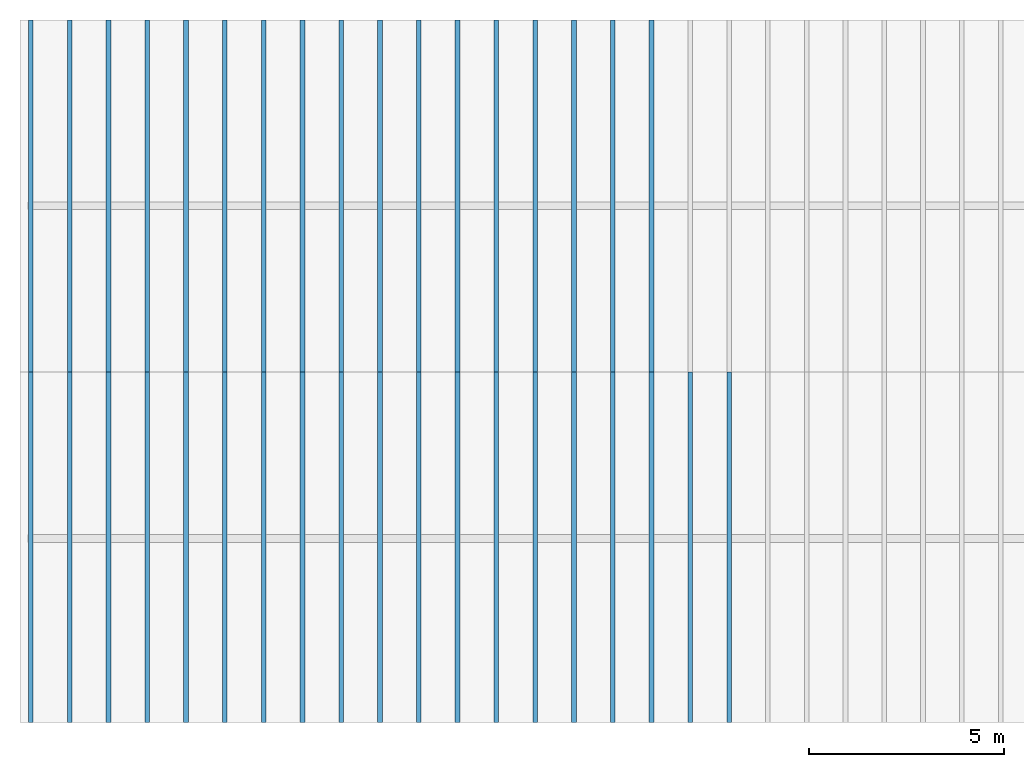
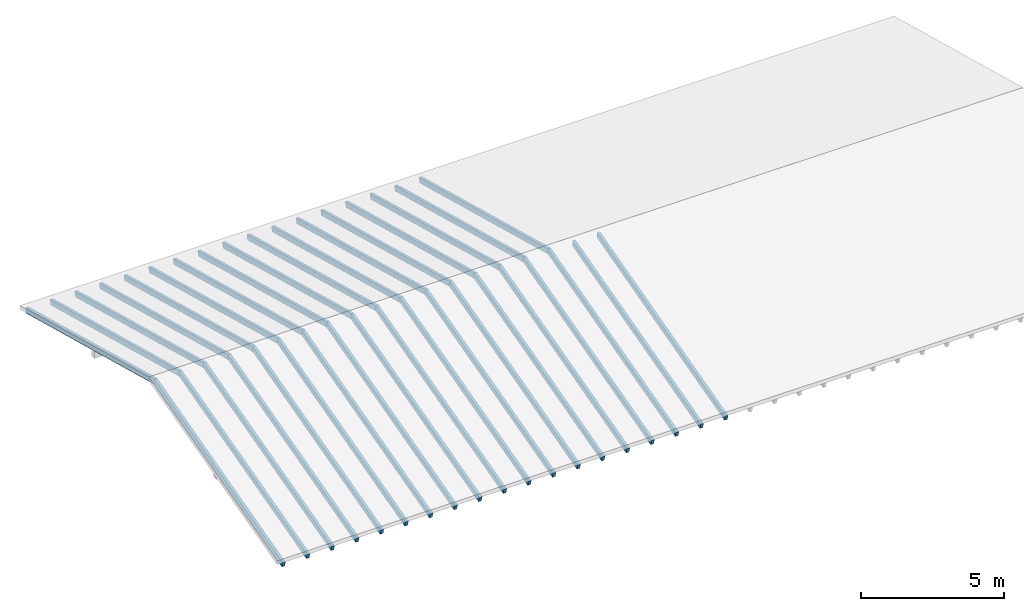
# One storey, part 1 of 3: 36 beams.
"""IFC4 building model written with IfcOpenShell, lengths in metres."""

from ifc_helpers import new_model, entity, si_unit, converted_unit, frame, origin_with_axes, origin_2d_with_axis, place, context, subcontext, project, spatial, rectangle, extrude, clip, halfspace, material, material_profile, profile_set, profile_usage, type_object, element, save


model = new_model("IFC4")

# Units and contexts
model_context = context("Model", 3, precision=1e-05, world=origin_with_axes())
plan_context = context("Plan", 2, precision=1e-05, world=origin_2d_with_axis())
body_context = subcontext(model_context, "Body", "Model", "MODEL_VIEW")
ifc_project = project(units=[converted_unit("PLANEANGLEUNIT", "degree", entity("IfcReal", 0.0174532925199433), si_unit("PLANEANGLEUNIT", "RADIAN"), dimensions=[0, 0, 0, 0, 0, 0, 0]), si_unit("AREAUNIT", "SQUARE_METRE"), si_unit("VOLUMEUNIT", "CUBIC_METRE"), si_unit("LENGTHUNIT", "METRE")], contexts=[model_context, plan_context])

# Site, building, storey
site_placement = place(None, origin_with_axes())
site = spatial("IfcSite", under=ifc_project, at=site_placement, Name="My Site")
building_placement = place(site_placement, origin_with_axes())
building = spatial("IfcBuilding", under=site, at=building_placement, Name="Werkhalle")
storey_placement = place(building_placement, frame((0.0, 0.0, 8.89999961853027), z_axis=(0.0, 0.0, 1.0), x_axis=(1.0, 0.0, 0.0)))
storey = spatial("IfcBuildingStorey", under=building, at=storey_placement, Name="05 Dach")

# Beams
ifc_material = material(Name="Fichte", Category="Holz")
ifc_material_profile = material_profile(ifc_material, rectangle(XDim=0.119999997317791, YDim=0.219999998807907))
ifc_profile_set = profile_set([ifc_material_profile], Name="Balken 12 / 22")
ifc_profile_usage_1 = profile_usage(ifc_profile_set, cardinal=1)
beam_type = type_object("IfcBeamType", Name="Holzbalken", PredefinedType="NOTDEFINED", material=ifc_profile_set)
beam_1_placement = place(storey_placement, frame((16.0760040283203, 16.9843139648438, -2.66374588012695), z_axis=(0.0, -0.965925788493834, 0.258819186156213), x_axis=(1.0, 0.0, 0.0)))
element("IfcBeam", 1, at=beam_1_placement, inside=storey, type_object=beam_type, material=ifc_profile_usage_1, Name="Sparren rechts", context=body_context, shape_type="Clipping", body=[
    clip(extrude(rectangle(XDim=0.119999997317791, YDim=0.219999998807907), frame((-0.0599999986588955, 0.109999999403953, 0.0), z_axis=(0.0, 0.0, 1.0), x_axis=(1.0, 0.0, 0.0)), (0.0, 0.0, 1.0), 9.96124942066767), halfspace(frame((-35.0000038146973, 0.220001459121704, 9.36019802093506), z_axis=(4.37113492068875e-08, -0.258823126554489, 0.965924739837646), x_axis=(-1.17125340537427e-08, -0.965924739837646, -0.258823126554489)), False)),
])
ifc_profile_usage_2 = profile_usage(ifc_profile_set, cardinal=1)
beam_2_placement = place(storey_placement, frame((15.0800037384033, 16.9843139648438, -2.66374588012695), z_axis=(0.0, -0.965925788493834, 0.258819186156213), x_axis=(1.0, 0.0, 0.0)))
element("IfcBeam", 2, at=beam_2_placement, inside=storey, type_object=beam_type, material=ifc_profile_usage_2, Name="Sparren rechts", context=body_context, shape_type="Clipping", body=[
    clip(extrude(rectangle(XDim=0.119999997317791, YDim=0.219999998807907), frame((-0.0599999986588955, 0.109999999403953, 0.0), z_axis=(0.0, 0.0, 1.0), x_axis=(1.0, 0.0, 0.0)), (0.0, 0.0, 1.0), 9.96124942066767), halfspace(frame((-35.0000038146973, 0.220001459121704, 9.36019802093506), z_axis=(4.37113492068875e-08, -0.258823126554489, 0.965924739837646), x_axis=(-1.17125340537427e-08, -0.965924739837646, -0.258823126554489)), False)),
])
ifc_profile_usage_3 = profile_usage(ifc_profile_set, cardinal=1)
beam_3_placement = place(storey_placement, frame((14.0840034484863, 16.9843139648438, -2.66374588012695), z_axis=(0.0, -0.965925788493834, 0.258819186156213), x_axis=(1.0, 0.0, 0.0)))
element("IfcBeam", 3, at=beam_3_placement, inside=storey, type_object=beam_type, material=ifc_profile_usage_3, Name="Sparren rechts", context=body_context, shape_type="Clipping", body=[
    clip(extrude(rectangle(XDim=0.119999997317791, YDim=0.219999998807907), frame((-0.0599999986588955, 0.109999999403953, 0.0), z_axis=(0.0, 0.0, 1.0), x_axis=(1.0, 0.0, 0.0)), (0.0, 0.0, 1.0), 9.96124942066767), halfspace(frame((-35.0000038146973, 0.220001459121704, 9.36019802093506), z_axis=(4.37113492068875e-08, -0.258823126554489, 0.965924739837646), x_axis=(-1.17125340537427e-08, -0.965924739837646, -0.258823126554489)), False)),
])
ifc_profile_usage_4 = profile_usage(ifc_profile_set, cardinal=1)
beam_4_placement = place(storey_placement, frame((13.0880031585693, 16.9843139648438, -2.66374588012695), z_axis=(0.0, -0.965925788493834, 0.258819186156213), x_axis=(1.0, 0.0, 0.0)))
element("IfcBeam", 4, at=beam_4_placement, inside=storey, type_object=beam_type, material=ifc_profile_usage_4, Name="Sparren rechts", context=body_context, shape_type="Clipping", body=[
    clip(extrude(rectangle(XDim=0.119999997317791, YDim=0.219999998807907), frame((-0.0599999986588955, 0.109999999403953, 0.0), z_axis=(0.0, 0.0, 1.0), x_axis=(1.0, 0.0, 0.0)), (0.0, 0.0, 1.0), 9.96124942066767), halfspace(frame((-35.0000038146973, 0.220001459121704, 9.36019802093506), z_axis=(4.37113492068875e-08, -0.258823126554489, 0.965924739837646), x_axis=(-1.17125340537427e-08, -0.965924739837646, -0.258823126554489)), False)),
])
ifc_profile_usage_5 = profile_usage(ifc_profile_set, cardinal=1)
beam_5_placement = place(storey_placement, frame((12.092004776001, 16.9843139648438, -2.66374588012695), z_axis=(0.0, -0.965925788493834, 0.258819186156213), x_axis=(1.0, 0.0, 0.0)))
element("IfcBeam", 5, at=beam_5_placement, inside=storey, type_object=beam_type, material=ifc_profile_usage_5, Name="Sparren rechts", context=body_context, shape_type="Clipping", body=[
    clip(extrude(rectangle(XDim=0.119999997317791, YDim=0.219999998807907), frame((-0.0599999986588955, 0.109999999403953, 0.0), z_axis=(0.0, 0.0, 1.0), x_axis=(1.0, 0.0, 0.0)), (0.0, 0.0, 1.0), 9.96124942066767), halfspace(frame((-35.0000038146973, 0.220001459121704, 9.36019802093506), z_axis=(4.37113492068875e-08, -0.258823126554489, 0.965924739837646), x_axis=(-1.17125340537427e-08, -0.965924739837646, -0.258823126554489)), False)),
])
ifc_profile_usage_6 = profile_usage(ifc_profile_set, cardinal=1)
beam_6_placement = place(storey_placement, frame((11.096004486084, 16.9843139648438, -2.66374588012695), z_axis=(0.0, -0.965925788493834, 0.258819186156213), x_axis=(1.0, 0.0, 0.0)))
element("IfcBeam", 6, at=beam_6_placement, inside=storey, type_object=beam_type, material=ifc_profile_usage_6, Name="Sparren rechts", context=body_context, shape_type="Clipping", body=[
    clip(extrude(rectangle(XDim=0.119999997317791, YDim=0.219999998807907), frame((-0.0599999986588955, 0.109999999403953, 0.0), z_axis=(0.0, 0.0, 1.0), x_axis=(1.0, 0.0, 0.0)), (0.0, 0.0, 1.0), 9.96124942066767), halfspace(frame((-35.0000038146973, 0.220001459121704, 9.36019802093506), z_axis=(4.37113492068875e-08, -0.258823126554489, 0.965924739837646), x_axis=(-1.17125340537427e-08, -0.965924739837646, -0.258823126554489)), False)),
])
ifc_profile_usage_7 = profile_usage(ifc_profile_set, cardinal=1)
beam_7_placement = place(storey_placement, frame((10.100004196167, 16.9843139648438, -2.66374588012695), z_axis=(0.0, -0.965925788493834, 0.258819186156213), x_axis=(1.0, 0.0, 0.0)))
element("IfcBeam", 7, at=beam_7_placement, inside=storey, type_object=beam_type, material=ifc_profile_usage_7, Name="Sparren rechts", context=body_context, shape_type="Clipping", body=[
    clip(extrude(rectangle(XDim=0.119999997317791, YDim=0.219999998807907), frame((-0.0599999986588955, 0.109999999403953, 0.0), z_axis=(0.0, 0.0, 1.0), x_axis=(1.0, 0.0, 0.0)), (0.0, 0.0, 1.0), 9.96124942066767), halfspace(frame((-35.0000038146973, 0.220001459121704, 9.36019802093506), z_axis=(4.37113492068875e-08, -0.258823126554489, 0.965924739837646), x_axis=(-1.17125340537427e-08, -0.965924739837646, -0.258823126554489)), False)),
])
ifc_profile_usage_8 = profile_usage(ifc_profile_set, cardinal=1)
beam_8_placement = place(storey_placement, frame((9.10400390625, 16.9843139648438, -2.66374588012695), z_axis=(0.0, -0.965925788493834, 0.258819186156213), x_axis=(1.0, 0.0, 0.0)))
element("IfcBeam", 8, at=beam_8_placement, inside=storey, type_object=beam_type, material=ifc_profile_usage_8, Name="Sparren rechts", context=body_context, shape_type="Clipping", body=[
    clip(extrude(rectangle(XDim=0.119999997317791, YDim=0.219999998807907), frame((-0.0599999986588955, 0.109999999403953, 0.0), z_axis=(0.0, 0.0, 1.0), x_axis=(1.0, 0.0, 0.0)), (0.0, 0.0, 1.0), 9.96124942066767), halfspace(frame((-35.0000038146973, 0.220001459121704, 9.36019802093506), z_axis=(4.37113492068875e-08, -0.258823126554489, 0.965924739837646), x_axis=(-1.17125340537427e-08, -0.965924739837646, -0.258823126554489)), False)),
])
ifc_profile_usage_9 = profile_usage(ifc_profile_set, cardinal=1)
beam_9_placement = place(storey_placement, frame((8.10800361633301, 16.9843139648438, -2.66374588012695), z_axis=(0.0, -0.965925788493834, 0.258819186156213), x_axis=(1.0, 0.0, 0.0)))
element("IfcBeam", 9, at=beam_9_placement, inside=storey, type_object=beam_type, material=ifc_profile_usage_9, Name="Sparren rechts", context=body_context, shape_type="Clipping", body=[
    clip(extrude(rectangle(XDim=0.119999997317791, YDim=0.219999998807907), frame((-0.0599999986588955, 0.109999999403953, 0.0), z_axis=(0.0, 0.0, 1.0), x_axis=(1.0, 0.0, 0.0)), (0.0, 0.0, 1.0), 9.96124942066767), halfspace(frame((-35.0000038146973, 0.220001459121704, 9.36019802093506), z_axis=(4.37113492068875e-08, -0.258823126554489, 0.965924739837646), x_axis=(-1.17125340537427e-08, -0.965924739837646, -0.258823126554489)), False)),
])
ifc_profile_usage_10 = profile_usage(ifc_profile_set, cardinal=1)
beam_10_placement = place(storey_placement, frame((7.11200332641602, 16.9843139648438, -2.66374588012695), z_axis=(0.0, -0.965925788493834, 0.258819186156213), x_axis=(1.0, 0.0, 0.0)))
element("IfcBeam", 10, at=beam_10_placement, inside=storey, type_object=beam_type, material=ifc_profile_usage_10, Name="Sparren rechts", context=body_context, shape_type="Clipping", body=[
    clip(extrude(rectangle(XDim=0.119999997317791, YDim=0.219999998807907), frame((-0.0599999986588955, 0.109999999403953, 0.0), z_axis=(0.0, 0.0, 1.0), x_axis=(1.0, 0.0, 0.0)), (0.0, 0.0, 1.0), 9.96124942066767), halfspace(frame((-35.0000038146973, 0.220001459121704, 9.36019802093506), z_axis=(4.37113492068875e-08, -0.258823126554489, 0.965924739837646), x_axis=(-1.17125340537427e-08, -0.965924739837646, -0.258823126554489)), False)),
])
ifc_profile_usage_11 = profile_usage(ifc_profile_set, cardinal=1)
beam_11_placement = place(storey_placement, frame((6.11600494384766, 16.9843139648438, -2.66374588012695), z_axis=(0.0, -0.965925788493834, 0.258819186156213), x_axis=(1.0, 0.0, 0.0)))
element("IfcBeam", 11, at=beam_11_placement, inside=storey, type_object=beam_type, material=ifc_profile_usage_11, Name="Sparren rechts", context=body_context, shape_type="Clipping", body=[
    clip(extrude(rectangle(XDim=0.119999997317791, YDim=0.219999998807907), frame((-0.0599999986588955, 0.109999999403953, 0.0), z_axis=(0.0, 0.0, 1.0), x_axis=(1.0, 0.0, 0.0)), (0.0, 0.0, 1.0), 9.96124942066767), halfspace(frame((-35.0000038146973, 0.220001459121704, 9.36019802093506), z_axis=(4.37113492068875e-08, -0.258823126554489, 0.965924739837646), x_axis=(-1.17125340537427e-08, -0.965924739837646, -0.258823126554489)), False)),
])
ifc_profile_usage_12 = profile_usage(ifc_profile_set, cardinal=1)
beam_12_placement = place(storey_placement, frame((5.12000465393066, 16.9843139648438, -2.66374588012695), z_axis=(0.0, -0.965925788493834, 0.258819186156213), x_axis=(1.0, 0.0, 0.0)))
element("IfcBeam", 12, at=beam_12_placement, inside=storey, type_object=beam_type, material=ifc_profile_usage_12, Name="Sparren rechts", context=body_context, shape_type="Clipping", body=[
    clip(extrude(rectangle(XDim=0.119999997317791, YDim=0.219999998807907), frame((-0.0599999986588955, 0.109999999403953, 0.0), z_axis=(0.0, 0.0, 1.0), x_axis=(1.0, 0.0, 0.0)), (0.0, 0.0, 1.0), 9.96124942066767), halfspace(frame((-35.0000038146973, 0.220001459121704, 9.36019802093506), z_axis=(4.37113492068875e-08, -0.258823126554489, 0.965924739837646), x_axis=(-1.17125340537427e-08, -0.965924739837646, -0.258823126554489)), False)),
])
ifc_profile_usage_13 = profile_usage(ifc_profile_set, cardinal=1)
beam_13_placement = place(storey_placement, frame((4.12400436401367, 16.9843139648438, -2.66374588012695), z_axis=(0.0, -0.965925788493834, 0.258819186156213), x_axis=(1.0, 0.0, 0.0)))
element("IfcBeam", 13, at=beam_13_placement, inside=storey, type_object=beam_type, material=ifc_profile_usage_13, Name="Sparren rechts", context=body_context, shape_type="Clipping", body=[
    clip(extrude(rectangle(XDim=0.119999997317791, YDim=0.219999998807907), frame((-0.0599999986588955, 0.109999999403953, 0.0), z_axis=(0.0, 0.0, 1.0), x_axis=(1.0, 0.0, 0.0)), (0.0, 0.0, 1.0), 9.96124942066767), halfspace(frame((-35.0000038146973, 0.220001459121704, 9.36019802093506), z_axis=(4.37113492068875e-08, -0.258823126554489, 0.965924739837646), x_axis=(-1.17125340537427e-08, -0.965924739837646, -0.258823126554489)), False)),
])
ifc_profile_usage_14 = profile_usage(ifc_profile_set, cardinal=1)
beam_14_placement = place(storey_placement, frame((3.12800407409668, 16.9843139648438, -2.66374588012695), z_axis=(0.0, -0.965925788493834, 0.258819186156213), x_axis=(1.0, 0.0, 0.0)))
element("IfcBeam", 14, at=beam_14_placement, inside=storey, type_object=beam_type, material=ifc_profile_usage_14, Name="Sparren rechts", context=body_context, shape_type="Clipping", body=[
    clip(extrude(rectangle(XDim=0.119999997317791, YDim=0.219999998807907), frame((-0.0599999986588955, 0.109999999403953, 0.0), z_axis=(0.0, 0.0, 1.0), x_axis=(1.0, 0.0, 0.0)), (0.0, 0.0, 1.0), 9.96124942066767), halfspace(frame((-35.0000038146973, 0.220001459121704, 9.36019802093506), z_axis=(4.37113492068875e-08, -0.258823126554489, 0.965924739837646), x_axis=(-1.17125340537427e-08, -0.965924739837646, -0.258823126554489)), False)),
])
ifc_profile_usage_15 = profile_usage(ifc_profile_set, cardinal=1)
beam_15_placement = place(storey_placement, frame((2.13200378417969, 16.9843139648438, -2.66374588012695), z_axis=(0.0, -0.965925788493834, 0.258819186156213), x_axis=(1.0, 0.0, 0.0)))
element("IfcBeam", 15, at=beam_15_placement, inside=storey, type_object=beam_type, material=ifc_profile_usage_15, Name="Sparren rechts", context=body_context, shape_type="Clipping", body=[
    clip(extrude(rectangle(XDim=0.119999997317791, YDim=0.219999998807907), frame((-0.0599999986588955, 0.109999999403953, 0.0), z_axis=(0.0, 0.0, 1.0), x_axis=(1.0, 0.0, 0.0)), (0.0, 0.0, 1.0), 9.96124942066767), halfspace(frame((-35.0000038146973, 0.220001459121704, 9.36019802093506), z_axis=(4.37113492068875e-08, -0.258823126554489, 0.965924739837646), x_axis=(-1.17125340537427e-08, -0.965924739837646, -0.258823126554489)), False)),
])
ifc_profile_usage_16 = profile_usage(ifc_profile_set, cardinal=1)
beam_16_placement = place(storey_placement, frame((1.13600540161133, 16.9843139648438, -2.66374588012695), z_axis=(0.0, -0.965925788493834, 0.258819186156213), x_axis=(1.0, 0.0, 0.0)))
element("IfcBeam", 16, at=beam_16_placement, inside=storey, type_object=beam_type, material=ifc_profile_usage_16, Name="Sparren rechts", context=body_context, shape_type="Clipping", body=[
    clip(extrude(rectangle(XDim=0.119999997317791, YDim=0.219999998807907), frame((-0.0599999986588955, 0.109999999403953, 0.0), z_axis=(0.0, 0.0, 1.0), x_axis=(1.0, 0.0, 0.0)), (0.0, 0.0, 1.0), 9.96124942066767), halfspace(frame((-35.0000038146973, 0.220001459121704, 9.36019802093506), z_axis=(4.37113492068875e-08, -0.258823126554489, 0.965924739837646), x_axis=(-1.17125340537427e-08, -0.965924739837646, -0.258823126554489)), False)),
])
ifc_profile_usage_17 = profile_usage(ifc_profile_set, cardinal=1)
beam_17_placement = place(storey_placement, frame((0.140003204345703, 16.9843139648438, -2.66374588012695), z_axis=(0.0, -0.965925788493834, 0.258819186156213), x_axis=(1.0, 0.0, 0.0)))
element("IfcBeam", 17, at=beam_17_placement, inside=storey, type_object=beam_type, material=ifc_profile_usage_17, Name="Sparren rechts", context=body_context, shape_type="Clipping", body=[
    clip(extrude(rectangle(XDim=0.119999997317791, YDim=0.219999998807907), frame((-0.0599999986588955, 0.109999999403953, 0.0), z_axis=(0.0, 0.0, 1.0), x_axis=(1.0, 0.0, 0.0)), (0.0, 0.0, 1.0), 9.96124942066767), halfspace(frame((-35.0000038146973, 0.220001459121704, 9.36019802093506), z_axis=(4.37113492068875e-08, -0.258823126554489, 0.965924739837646), x_axis=(-1.17125340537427e-08, -0.965924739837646, -0.258823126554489)), False)),
])
ifc_profile_usage_18 = profile_usage(ifc_profile_set, cardinal=3)
beam_18_placement = place(storey_placement, frame((18.0680046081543, -0.942804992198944, -2.65262269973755), z_axis=(-1.45850730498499e-07, 0.965925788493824, 0.25881918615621), x_axis=(-0.999999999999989, -1.50995802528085e-07, 4.07969310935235e-15)))
element("IfcBeam", 18, at=beam_18_placement, inside=storey, type_object=beam_type, material=ifc_profile_usage_18, Name="Sparren Links", context=body_context, shape_type="Clipping", body=[
    clip(extrude(rectangle(XDim=0.119999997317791, YDim=0.219999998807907), frame((0.0599999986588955, 0.109999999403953, 0.0), z_axis=(0.0, 0.0, 1.0), x_axis=(1.0, 0.0, 0.0)), (0.0, 0.0, 1.0), 9.91827341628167), halfspace(frame((35.0000038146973, 0.220000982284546, 9.31722068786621), z_axis=(-4.37114344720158e-08, -0.2588150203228, 0.965926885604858), x_axis=(1.17121610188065e-08, -0.965926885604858, -0.2588150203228)), False)),
])
ifc_profile_usage_19 = profile_usage(ifc_profile_set, cardinal=3)
beam_19_placement = place(storey_placement, frame((17.0720043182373, -0.942805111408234, -2.65262269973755), z_axis=(-1.45850730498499e-07, 0.965925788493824, 0.25881918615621), x_axis=(-0.999999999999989, -1.50995802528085e-07, 4.07969310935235e-15)))
element("IfcBeam", 19, at=beam_19_placement, inside=storey, type_object=beam_type, material=ifc_profile_usage_19, Name="Sparren Links", context=body_context, shape_type="Clipping", body=[
    clip(extrude(rectangle(XDim=0.119999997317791, YDim=0.219999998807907), frame((0.0599999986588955, 0.109999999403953, 0.0), z_axis=(0.0, 0.0, 1.0), x_axis=(1.0, 0.0, 0.0)), (0.0, 0.0, 1.0), 9.91827341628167), halfspace(frame((35.0000038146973, 0.220000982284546, 9.31722068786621), z_axis=(-4.37114344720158e-08, -0.2588150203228, 0.965926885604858), x_axis=(1.17121610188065e-08, -0.965926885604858, -0.2588150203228)), False)),
])
ifc_profile_usage_20 = profile_usage(ifc_profile_set, cardinal=3)
beam_20_placement = place(storey_placement, frame((16.0760040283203, -0.942805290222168, -2.65262269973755), z_axis=(-1.45850730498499e-07, 0.965925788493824, 0.25881918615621), x_axis=(-0.999999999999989, -1.50995802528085e-07, 4.07969310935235e-15)))
element("IfcBeam", 20, at=beam_20_placement, inside=storey, type_object=beam_type, material=ifc_profile_usage_20, Name="Sparren Links", context=body_context, shape_type="Clipping", body=[
    clip(extrude(rectangle(XDim=0.119999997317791, YDim=0.219999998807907), frame((0.0599999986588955, 0.109999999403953, 0.0), z_axis=(0.0, 0.0, 1.0), x_axis=(1.0, 0.0, 0.0)), (0.0, 0.0, 1.0), 9.91827341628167), halfspace(frame((35.0000038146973, 0.220000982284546, 9.31722068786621), z_axis=(-4.37114344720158e-08, -0.2588150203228, 0.965926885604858), x_axis=(1.17121610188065e-08, -0.965926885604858, -0.2588150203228)), False)),
])
ifc_profile_usage_21 = profile_usage(ifc_profile_set, cardinal=3)
beam_21_placement = place(storey_placement, frame((15.0800037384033, -0.942805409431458, -2.65262269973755), z_axis=(-1.45850730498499e-07, 0.965925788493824, 0.25881918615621), x_axis=(-0.999999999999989, -1.50995802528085e-07, 4.07969310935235e-15)))
element("IfcBeam", 21, at=beam_21_placement, inside=storey, type_object=beam_type, material=ifc_profile_usage_21, Name="Sparren Links", context=body_context, shape_type="Clipping", body=[
    clip(extrude(rectangle(XDim=0.119999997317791, YDim=0.219999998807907), frame((0.0599999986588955, 0.109999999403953, 0.0), z_axis=(0.0, 0.0, 1.0), x_axis=(1.0, 0.0, 0.0)), (0.0, 0.0, 1.0), 9.91827341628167), halfspace(frame((35.0000038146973, 0.220000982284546, 9.31722068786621), z_axis=(-4.37114344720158e-08, -0.2588150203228, 0.965926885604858), x_axis=(1.17121610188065e-08, -0.965926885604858, -0.2588150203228)), False)),
])
ifc_profile_usage_22 = profile_usage(ifc_profile_set, cardinal=3)
beam_22_placement = place(storey_placement, frame((14.0840034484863, -0.942805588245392, -2.65262269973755), z_axis=(-1.45850730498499e-07, 0.965925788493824, 0.25881918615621), x_axis=(-0.999999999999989, -1.50995802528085e-07, 4.07969310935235e-15)))
element("IfcBeam", 22, at=beam_22_placement, inside=storey, type_object=beam_type, material=ifc_profile_usage_22, Name="Sparren Links", context=body_context, shape_type="Clipping", body=[
    clip(extrude(rectangle(XDim=0.119999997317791, YDim=0.219999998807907), frame((0.0599999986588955, 0.109999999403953, 0.0), z_axis=(0.0, 0.0, 1.0), x_axis=(1.0, 0.0, 0.0)), (0.0, 0.0, 1.0), 9.91827341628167), halfspace(frame((35.0000038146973, 0.220000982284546, 9.31722068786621), z_axis=(-4.37114344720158e-08, -0.2588150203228, 0.965926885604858), x_axis=(1.17121610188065e-08, -0.965926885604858, -0.2588150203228)), False)),
])
ifc_profile_usage_23 = profile_usage(ifc_profile_set, cardinal=3)
beam_23_placement = place(storey_placement, frame((13.0880031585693, -0.942805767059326, -2.65262269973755), z_axis=(-1.45850730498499e-07, 0.965925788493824, 0.25881918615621), x_axis=(-0.999999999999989, -1.50995802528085e-07, 4.07969310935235e-15)))
element("IfcBeam", 23, at=beam_23_placement, inside=storey, type_object=beam_type, material=ifc_profile_usage_23, Name="Sparren Links", context=body_context, shape_type="Clipping", body=[
    clip(extrude(rectangle(XDim=0.119999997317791, YDim=0.219999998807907), frame((0.0599999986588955, 0.109999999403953, 0.0), z_axis=(0.0, 0.0, 1.0), x_axis=(1.0, 0.0, 0.0)), (0.0, 0.0, 1.0), 9.91827341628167), halfspace(frame((35.0000038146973, 0.220000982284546, 9.31722068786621), z_axis=(-4.37114344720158e-08, -0.2588150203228, 0.965926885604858), x_axis=(1.17121610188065e-08, -0.965926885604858, -0.2588150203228)), False)),
])
ifc_profile_usage_24 = profile_usage(ifc_profile_set, cardinal=3)
beam_24_placement = place(storey_placement, frame((12.092004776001, -0.942805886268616, -2.65262269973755), z_axis=(-1.45850730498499e-07, 0.965925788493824, 0.25881918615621), x_axis=(-0.999999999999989, -1.50995802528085e-07, 4.07969310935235e-15)))
element("IfcBeam", 24, at=beam_24_placement, inside=storey, type_object=beam_type, material=ifc_profile_usage_24, Name="Sparren Links", context=body_context, shape_type="Clipping", body=[
    clip(extrude(rectangle(XDim=0.119999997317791, YDim=0.219999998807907), frame((0.0599999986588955, 0.109999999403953, 0.0), z_axis=(0.0, 0.0, 1.0), x_axis=(1.0, 0.0, 0.0)), (0.0, 0.0, 1.0), 9.91827341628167), halfspace(frame((35.0000038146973, 0.220000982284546, 9.31722068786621), z_axis=(-4.37114344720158e-08, -0.2588150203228, 0.965926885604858), x_axis=(1.17121610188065e-08, -0.965926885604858, -0.2588150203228)), False)),
])
ifc_profile_usage_25 = profile_usage(ifc_profile_set, cardinal=3)
beam_25_placement = place(storey_placement, frame((11.096004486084, -0.94280606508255, -2.65262269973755), z_axis=(-1.45850730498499e-07, 0.965925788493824, 0.25881918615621), x_axis=(-0.999999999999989, -1.50995802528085e-07, 4.07969310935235e-15)))
element("IfcBeam", 25, at=beam_25_placement, inside=storey, type_object=beam_type, material=ifc_profile_usage_25, Name="Sparren Links", context=body_context, shape_type="Clipping", body=[
    clip(extrude(rectangle(XDim=0.119999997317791, YDim=0.219999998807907), frame((0.0599999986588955, 0.109999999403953, 0.0), z_axis=(0.0, 0.0, 1.0), x_axis=(1.0, 0.0, 0.0)), (0.0, 0.0, 1.0), 9.91827341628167), halfspace(frame((35.0000038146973, 0.220000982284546, 9.31722068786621), z_axis=(-4.37114344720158e-08, -0.2588150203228, 0.965926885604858), x_axis=(1.17121610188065e-08, -0.965926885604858, -0.2588150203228)), False)),
])
ifc_profile_usage_26 = profile_usage(ifc_profile_set, cardinal=3)
beam_26_placement = place(storey_placement, frame((10.100004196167, -0.94280618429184, -2.65262269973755), z_axis=(-1.45850730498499e-07, 0.965925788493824, 0.25881918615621), x_axis=(-0.999999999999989, -1.50995802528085e-07, 4.07969310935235e-15)))
element("IfcBeam", 26, at=beam_26_placement, inside=storey, type_object=beam_type, material=ifc_profile_usage_26, Name="Sparren Links", context=body_context, shape_type="Clipping", body=[
    clip(extrude(rectangle(XDim=0.119999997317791, YDim=0.219999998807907), frame((0.0599999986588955, 0.109999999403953, 0.0), z_axis=(0.0, 0.0, 1.0), x_axis=(1.0, 0.0, 0.0)), (0.0, 0.0, 1.0), 9.91827341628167), halfspace(frame((35.0000038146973, 0.220000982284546, 9.31722068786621), z_axis=(-4.37114344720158e-08, -0.2588150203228, 0.965926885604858), x_axis=(1.17121610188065e-08, -0.965926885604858, -0.2588150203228)), False)),
])
ifc_profile_usage_27 = profile_usage(ifc_profile_set, cardinal=3)
beam_27_placement = place(storey_placement, frame((9.10400390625, -0.942806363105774, -2.65262269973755), z_axis=(-1.45850730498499e-07, 0.965925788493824, 0.25881918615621), x_axis=(-0.999999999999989, -1.50995802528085e-07, 4.07969310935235e-15)))
element("IfcBeam", 27, at=beam_27_placement, inside=storey, type_object=beam_type, material=ifc_profile_usage_27, Name="Sparren Links", context=body_context, shape_type="Clipping", body=[
    clip(extrude(rectangle(XDim=0.119999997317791, YDim=0.219999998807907), frame((0.0599999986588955, 0.109999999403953, 0.0), z_axis=(0.0, 0.0, 1.0), x_axis=(1.0, 0.0, 0.0)), (0.0, 0.0, 1.0), 9.91827341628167), halfspace(frame((35.0000038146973, 0.220000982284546, 9.31722068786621), z_axis=(-4.37114344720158e-08, -0.2588150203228, 0.965926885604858), x_axis=(1.17121610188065e-08, -0.965926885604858, -0.2588150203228)), False)),
])
ifc_profile_usage_28 = profile_usage(ifc_profile_set, cardinal=3)
beam_28_placement = place(storey_placement, frame((8.10800361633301, -0.942806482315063, -2.65262269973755), z_axis=(-1.45850730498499e-07, 0.965925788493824, 0.25881918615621), x_axis=(-0.999999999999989, -1.50995802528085e-07, 4.07969310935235e-15)))
element("IfcBeam", 28, at=beam_28_placement, inside=storey, type_object=beam_type, material=ifc_profile_usage_28, Name="Sparren Links", context=body_context, shape_type="Clipping", body=[
    clip(extrude(rectangle(XDim=0.119999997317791, YDim=0.219999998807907), frame((0.0599999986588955, 0.109999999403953, 0.0), z_axis=(0.0, 0.0, 1.0), x_axis=(1.0, 0.0, 0.0)), (0.0, 0.0, 1.0), 9.91827341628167), halfspace(frame((35.0000038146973, 0.220000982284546, 9.31722068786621), z_axis=(-4.37114344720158e-08, -0.2588150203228, 0.965926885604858), x_axis=(1.17121610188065e-08, -0.965926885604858, -0.2588150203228)), False)),
])
ifc_profile_usage_29 = profile_usage(ifc_profile_set, cardinal=3)
beam_29_placement = place(storey_placement, frame((7.11200332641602, -0.942806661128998, -2.65262269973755), z_axis=(-1.45850730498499e-07, 0.965925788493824, 0.25881918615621), x_axis=(-0.999999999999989, -1.50995802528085e-07, 4.07969310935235e-15)))
element("IfcBeam", 29, at=beam_29_placement, inside=storey, type_object=beam_type, material=ifc_profile_usage_29, Name="Sparren Links", context=body_context, shape_type="Clipping", body=[
    clip(extrude(rectangle(XDim=0.119999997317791, YDim=0.219999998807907), frame((0.0599999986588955, 0.109999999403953, 0.0), z_axis=(0.0, 0.0, 1.0), x_axis=(1.0, 0.0, 0.0)), (0.0, 0.0, 1.0), 9.91827341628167), halfspace(frame((35.0000038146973, 0.220000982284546, 9.31722068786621), z_axis=(-4.37114344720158e-08, -0.2588150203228, 0.965926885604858), x_axis=(1.17121610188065e-08, -0.965926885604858, -0.2588150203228)), False)),
])
ifc_profile_usage_30 = profile_usage(ifc_profile_set, cardinal=3)
beam_30_placement = place(storey_placement, frame((6.11600494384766, -0.942806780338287, -2.65262269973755), z_axis=(-1.45850730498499e-07, 0.965925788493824, 0.25881918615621), x_axis=(-0.999999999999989, -1.50995802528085e-07, 4.07969310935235e-15)))
element("IfcBeam", 30, at=beam_30_placement, inside=storey, type_object=beam_type, material=ifc_profile_usage_30, Name="Sparren Links", context=body_context, shape_type="Clipping", body=[
    clip(extrude(rectangle(XDim=0.119999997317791, YDim=0.219999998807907), frame((0.0599999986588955, 0.109999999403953, 0.0), z_axis=(0.0, 0.0, 1.0), x_axis=(1.0, 0.0, 0.0)), (0.0, 0.0, 1.0), 9.91827341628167), halfspace(frame((35.0000038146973, 0.220000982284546, 9.31722068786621), z_axis=(-4.37114344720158e-08, -0.2588150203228, 0.965926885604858), x_axis=(1.17121610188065e-08, -0.965926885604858, -0.2588150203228)), False)),
])
ifc_profile_usage_31 = profile_usage(ifc_profile_set, cardinal=3)
beam_31_placement = place(storey_placement, frame((5.12000465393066, -0.942806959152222, -2.65262269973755), z_axis=(-1.45850730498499e-07, 0.965925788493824, 0.25881918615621), x_axis=(-0.999999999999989, -1.50995802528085e-07, 4.07969310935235e-15)))
element("IfcBeam", 31, at=beam_31_placement, inside=storey, type_object=beam_type, material=ifc_profile_usage_31, Name="Sparren Links", context=body_context, shape_type="Clipping", body=[
    clip(extrude(rectangle(XDim=0.119999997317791, YDim=0.219999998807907), frame((0.0599999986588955, 0.109999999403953, 0.0), z_axis=(0.0, 0.0, 1.0), x_axis=(1.0, 0.0, 0.0)), (0.0, 0.0, 1.0), 9.91827341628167), halfspace(frame((35.0000038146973, 0.220000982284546, 9.31722068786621), z_axis=(-4.37114344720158e-08, -0.2588150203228, 0.965926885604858), x_axis=(1.17121610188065e-08, -0.965926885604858, -0.2588150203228)), False)),
])
ifc_profile_usage_32 = profile_usage(ifc_profile_set, cardinal=3)
beam_32_placement = place(storey_placement, frame((4.12400436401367, -0.942807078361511, -2.65262269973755), z_axis=(-1.45850730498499e-07, 0.965925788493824, 0.25881918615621), x_axis=(-0.999999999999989, -1.50995802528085e-07, 4.07969310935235e-15)))
element("IfcBeam", 32, at=beam_32_placement, inside=storey, type_object=beam_type, material=ifc_profile_usage_32, Name="Sparren Links", context=body_context, shape_type="Clipping", body=[
    clip(extrude(rectangle(XDim=0.119999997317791, YDim=0.219999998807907), frame((0.0599999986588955, 0.109999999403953, 0.0), z_axis=(0.0, 0.0, 1.0), x_axis=(1.0, 0.0, 0.0)), (0.0, 0.0, 1.0), 9.91827341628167), halfspace(frame((35.0000038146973, 0.220000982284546, 9.31722068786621), z_axis=(-4.37114344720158e-08, -0.2588150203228, 0.965926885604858), x_axis=(1.17121610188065e-08, -0.965926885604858, -0.2588150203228)), False)),
])
ifc_profile_usage_33 = profile_usage(ifc_profile_set, cardinal=3)
beam_33_placement = place(storey_placement, frame((3.12800407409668, -0.942807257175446, -2.65262269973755), z_axis=(-1.45850730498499e-07, 0.965925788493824, 0.25881918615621), x_axis=(-0.999999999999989, -1.50995802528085e-07, 4.07969310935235e-15)))
element("IfcBeam", 33, at=beam_33_placement, inside=storey, type_object=beam_type, material=ifc_profile_usage_33, Name="Sparren Links", context=body_context, shape_type="Clipping", body=[
    clip(extrude(rectangle(XDim=0.119999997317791, YDim=0.219999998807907), frame((0.0599999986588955, 0.109999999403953, 0.0), z_axis=(0.0, 0.0, 1.0), x_axis=(1.0, 0.0, 0.0)), (0.0, 0.0, 1.0), 9.91827341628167), halfspace(frame((35.0000038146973, 0.220000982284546, 9.31722068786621), z_axis=(-4.37114344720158e-08, -0.2588150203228, 0.965926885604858), x_axis=(1.17121610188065e-08, -0.965926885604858, -0.2588150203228)), False)),
])
ifc_profile_usage_34 = profile_usage(ifc_profile_set, cardinal=3)
beam_34_placement = place(storey_placement, frame((2.13200378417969, -0.942807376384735, -2.65262269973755), z_axis=(-1.45850730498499e-07, 0.965925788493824, 0.25881918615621), x_axis=(-0.999999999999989, -1.50995802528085e-07, 4.07969310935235e-15)))
element("IfcBeam", 34, at=beam_34_placement, inside=storey, type_object=beam_type, material=ifc_profile_usage_34, Name="Sparren Links", context=body_context, shape_type="Clipping", body=[
    clip(extrude(rectangle(XDim=0.119999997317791, YDim=0.219999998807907), frame((0.0599999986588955, 0.109999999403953, 0.0), z_axis=(0.0, 0.0, 1.0), x_axis=(1.0, 0.0, 0.0)), (0.0, 0.0, 1.0), 9.91827341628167), halfspace(frame((35.0000038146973, 0.220000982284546, 9.31722068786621), z_axis=(-4.37114344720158e-08, -0.2588150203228, 0.965926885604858), x_axis=(1.17121610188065e-08, -0.965926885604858, -0.2588150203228)), False)),
])
ifc_profile_usage_35 = profile_usage(ifc_profile_set, cardinal=3)
beam_35_placement = place(storey_placement, frame((1.13600540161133, -0.942807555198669, -2.65262269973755), z_axis=(-1.45850730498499e-07, 0.965925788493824, 0.25881918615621), x_axis=(-0.999999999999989, -1.50995802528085e-07, 4.07969310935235e-15)))
element("IfcBeam", 35, at=beam_35_placement, inside=storey, type_object=beam_type, material=ifc_profile_usage_35, Name="Sparren Links", context=body_context, shape_type="Clipping", body=[
    clip(extrude(rectangle(XDim=0.119999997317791, YDim=0.219999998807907), frame((0.0599999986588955, 0.109999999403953, 0.0), z_axis=(0.0, 0.0, 1.0), x_axis=(1.0, 0.0, 0.0)), (0.0, 0.0, 1.0), 9.91827341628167), halfspace(frame((35.0000038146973, 0.220000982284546, 9.31722068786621), z_axis=(-4.37114344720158e-08, -0.2588150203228, 0.965926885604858), x_axis=(1.17121610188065e-08, -0.965926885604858, -0.2588150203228)), False)),
])
ifc_profile_usage_36 = profile_usage(ifc_profile_set, cardinal=3)
beam_36_placement = place(storey_placement, frame((0.140003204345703, -0.942807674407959, -2.65262269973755), z_axis=(-1.45850730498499e-07, 0.965925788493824, 0.25881918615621), x_axis=(-0.999999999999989, -1.50995802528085e-07, 4.07969310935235e-15)))
element("IfcBeam", 36, at=beam_36_placement, inside=storey, type_object=beam_type, material=ifc_profile_usage_36, Name="Sparren Links", context=body_context, shape_type="Clipping", body=[
    clip(extrude(rectangle(XDim=0.119999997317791, YDim=0.219999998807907), frame((0.0599999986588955, 0.109999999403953, 0.0), z_axis=(0.0, 0.0, 1.0), x_axis=(1.0, 0.0, 0.0)), (0.0, 0.0, 1.0), 9.91827341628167), halfspace(frame((35.0000038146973, 0.220000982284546, 9.31722068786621), z_axis=(-4.37114344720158e-08, -0.2588150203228, 0.965926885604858), x_axis=(1.17121610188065e-08, -0.965926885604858, -0.2588150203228)), False)),
])

save(model, "model.ifc")
